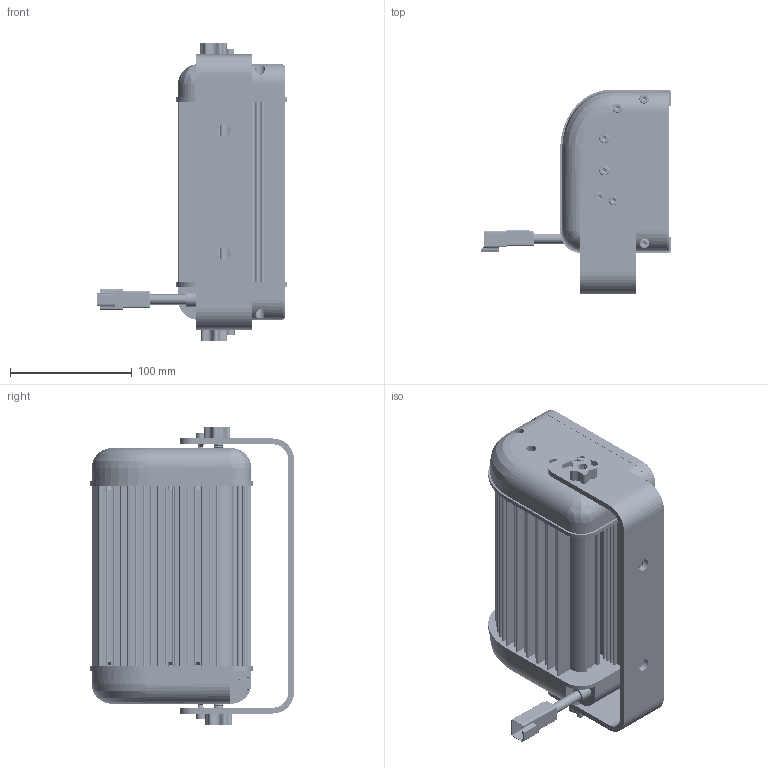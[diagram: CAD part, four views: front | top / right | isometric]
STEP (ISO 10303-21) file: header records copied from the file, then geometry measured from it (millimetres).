
FILE_DESCRIPTION (( 'STEP AP214' ), '1' );
FILE_NAME ('LEDLB-24ET.STEP', '2015-01-23T16:37:10', ( '' ), ( '' ), 'SwSTEP 2.0', 'SolidWorks 2015', '' );
FILE_SCHEMA (( 'AUTOMOTIVE_DESIGN' ));
Length unit declared in the file: inch
Products named in the file (12): LEDLBX2 Side; LEDLBX2 Middle Body Variable_24E; LEDLB-24ET; socket head cap screw_ai_HX-SHCS 0.19-32x0.375x0.375-S; P10W Adjustment Knob; Trunion_LEDLB-24E; LEDLBX2 Assembly_24E; socket set screw flat point_ai_SSFLATSKT 0.3125-18x0.5-HX-N; socket head cap screw_ai_HX-SHCS 0.19-32x0.75x0.75-S; deutsch female dc04; LEDLB BULB; LEDLBX2 Side with Cord
Assembly tree (62 placements, depth 3):
  LEDLB-24ET
    LEDLBX2 Assembly_24E
      LEDLBX2 Middle Body Variable_24E
      LEDLBX2 Side
      LEDLBX2 Side with Cord
      LEDLB BULB  x24
      deutsch female dc04
      socket head cap screw_ai_HX-SHCS 0.19-32x0.75x0.75-S  x14
      socket set screw flat point_ai_SSFLATSKT 0.3125-18x0.5-HX-N  x14
    Trunion_LEDLB-24E
    P10W Adjustment Knob  x2
    socket head cap screw_ai_HX-SHCS 0.19-32x0.375x0.375-S  x2
Bounding box: 156.03 x 167.36 x 244.25 mm (x, y, z)
Volume: 1702312 mm3; surface area: 517121.9 mm2
Topology: 87 solids, 87 shells, 4144 faces, 10171 edges, 6285 vertices
Faces by surface type: cone 1804, cylinder 1328, plane 862, bspline 106, torus 38, sphere 6
Entity records: 37107 total; most frequent: CARTESIAN_POINT 7125, DIRECTION 6516, ORIENTED_EDGE 5786, EDGE_CURVE 2893, AXIS2_PLACEMENT_3D 2470, VERTEX_POINT 1815, VECTOR 1576, LINE 1576
